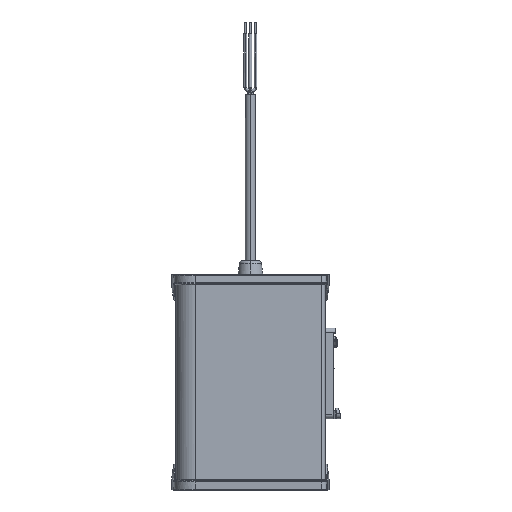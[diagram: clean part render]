
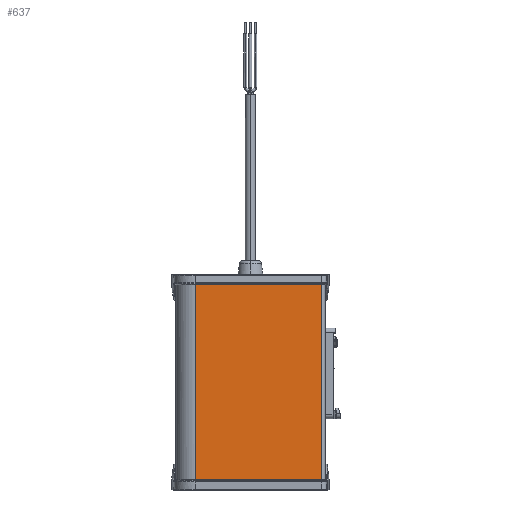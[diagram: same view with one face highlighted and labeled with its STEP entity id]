
A CAD part, left-side view. The second image highlights one B-rep face of the part: STEP entity #637.
In plain terms, the highlighted planar face has unit normal (-1, 0, 0).
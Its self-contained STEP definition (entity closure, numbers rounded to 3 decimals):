
#637=ADVANCED_FACE('',(#1779),#18498,.T.);
#1779=FACE_OUTER_BOUND('',#2921,.T.);
#2921=EDGE_LOOP('',(#4192,#4193,#4194,#4195));
#4192=ORIENTED_EDGE('',*,*,#9807,.F.);
#4193=ORIENTED_EDGE('',*,*,#9810,.F.);
#4194=ORIENTED_EDGE('',*,*,#9808,.F.);
#4195=ORIENTED_EDGE('',*,*,#9809,.F.);
#9807=EDGE_CURVE('',#16039,#16038,#14891,.T.);
#9808=EDGE_CURVE('',#16040,#16041,#14892,.T.);
#9809=EDGE_CURVE('',#16038,#16040,#14893,.T.);
#9810=EDGE_CURVE('',#16041,#16039,#14894,.T.);
#14891=B_SPLINE_CURVE_WITH_KNOTS('',1,(#20430,#20431),.UNSPECIFIED.,.F.,
 .F.,(2,2),(0.,100.),.UNSPECIFIED.);
#14892=B_SPLINE_CURVE_WITH_KNOTS('',1,(#20432,#20433),.UNSPECIFIED.,.F.,
 .F.,(2,2),(-100.,0.),.UNSPECIFIED.);
#14893=B_SPLINE_CURVE_WITH_KNOTS('',1,(#20434,#20435),.UNSPECIFIED.,.F.,
 .F.,(2,2),(-63.,0.),.UNSPECIFIED.);
#14894=B_SPLINE_CURVE_WITH_KNOTS('',1,(#20436,#20437),.UNSPECIFIED.,.F.,
 .F.,(2,2),(0.,63.),.UNSPECIFIED.);
#16038=VERTEX_POINT('',#20226);
#16039=VERTEX_POINT('',#20227);
#16040=VERTEX_POINT('',#20228);
#16041=VERTEX_POINT('',#20229);
#18498=PLANE('',#18786);
#18786=AXIS2_PLACEMENT_3D('',#20163,#19468,$);
#19468=DIRECTION('',(-1.,0.,0.));
#20163=CARTESIAN_POINT('',(169.911,33.808,10.));
#20226=CARTESIAN_POINT('',(169.911,27.508,0.));
#20227=CARTESIAN_POINT('',(169.911,27.508,-100.));
#20228=CARTESIAN_POINT('',(169.911,-35.492,0.));
#20229=CARTESIAN_POINT('',(169.911,-35.492,-100.));
#20430=CARTESIAN_POINT('',(169.911,27.508,-100.));
#20431=CARTESIAN_POINT('',(169.911,27.508,0.));
#20432=CARTESIAN_POINT('',(169.911,-35.492,0.));
#20433=CARTESIAN_POINT('',(169.911,-35.492,-100.));
#20434=CARTESIAN_POINT('',(169.911,27.508,0.));
#20435=CARTESIAN_POINT('',(169.911,-35.492,0.));
#20436=CARTESIAN_POINT('',(169.911,-35.492,-100.));
#20437=CARTESIAN_POINT('',(169.911,27.508,-100.));
